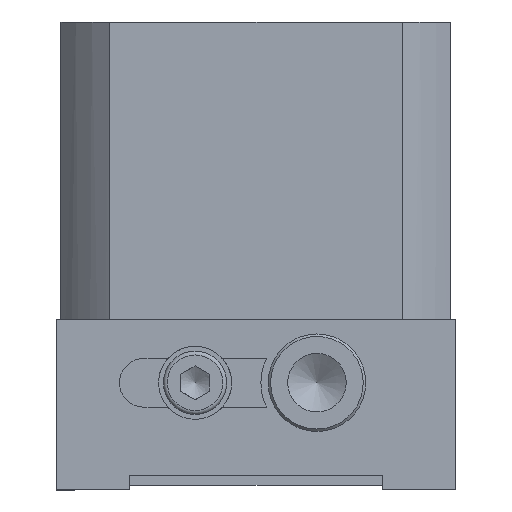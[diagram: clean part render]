
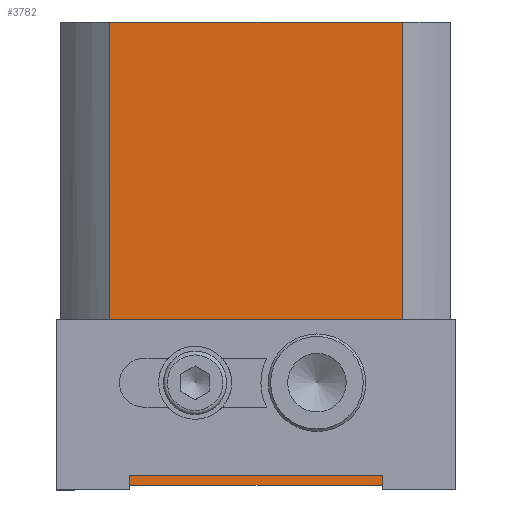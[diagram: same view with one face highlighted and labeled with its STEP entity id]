
A CAD part, left-side view. The second image highlights one B-rep face of the part: STEP entity #3782.
In plain terms, the highlighted planar face has unit normal (-1, 0, 0).
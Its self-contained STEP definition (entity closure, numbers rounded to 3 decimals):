
#1158=CARTESIAN_POINT('',(10.,37.5,-14.));
#1159=VERTEX_POINT('',#1158);
#1160=CARTESIAN_POINT('',(10.,37.5,-24.));
#1161=DIRECTION('',(-1.0,0.0,0.0));
#1162=DIRECTION('',(0.0,-1.0,0.0));
#1163=AXIS2_PLACEMENT_3D('',#1160,#1161,#1162);
#1164=CIRCLE('',#1163,10.0);
#1165=EDGE_CURVE('',#1159,#1159,#1164,.T.);
#3729=CARTESIAN_POINT('',(10.,80.0,50.0));
#3730=DIRECTION('',(-1.0,0.0,0.0));
#3731=DIRECTION('',(0.0,0.0,1.0));
#3732=AXIS2_PLACEMENT_3D('',#3729,#3730,#3731);
#3733=PLANE('',#3732);
#3734=CARTESIAN_POINT('',(10.,20.,50.0));
#3735=VERTEX_POINT('',#3734);
#3736=CARTESIAN_POINT('',(10.,20.,-45.0));
#3737=VERTEX_POINT('',#3736);
#3738=CARTESIAN_POINT('',(10.,20.,50.0));
#3739=DIRECTION('',(0.0,0.0,-1.0));
#3740=VECTOR('',#3739,95.0);
#3741=LINE('',#3738,#3740);
#3742=EDGE_CURVE('',#3735,#3737,#3741,.T.);
#3743=ORIENTED_EDGE('',*,*,#3742,.F.);
#3744=CARTESIAN_POINT('',(10.,80.0,50.0));
#3745=VERTEX_POINT('',#3744);
#3746=CARTESIAN_POINT('',(10.0,80.,50.0));
#3747=DIRECTION('',(0.0,-1.0,0.0));
#3748=VECTOR('',#3747,60.);
#3749=LINE('',#3746,#3748);
#3750=EDGE_CURVE('',#3745,#3735,#3749,.T.);
#3751=ORIENTED_EDGE('',*,*,#3750,.F.);
#3752=CARTESIAN_POINT('',(10.,80.,-45.0));
#3753=VERTEX_POINT('',#3752);
#3754=CARTESIAN_POINT('',(10.,80.0,50.0));
#3755=DIRECTION('',(0.0,0.0,-1.0));
#3756=VECTOR('',#3755,95.0);
#3757=LINE('',#3754,#3756);
#3758=EDGE_CURVE('',#3745,#3753,#3757,.T.);
#3759=ORIENTED_EDGE('',*,*,#3758,.T.);
#3760=CARTESIAN_POINT('',(10.,80.,-45.0));
#3761=DIRECTION('',(0.0,-1.0,0.0));
#3762=VECTOR('',#3761,60.);
#3763=LINE('',#3760,#3762);
#3764=EDGE_CURVE('',#3753,#3737,#3763,.T.);
#3765=ORIENTED_EDGE('',*,*,#3764,.T.);
#3766=EDGE_LOOP('',(#3743,#3751,#3759,#3765));
#3767=FACE_OUTER_BOUND('',#3766,.T.);
#3768=ORIENTED_EDGE('',*,*,#1165,.F.);
#3769=EDGE_LOOP('',(#3768));
#3770=FACE_BOUND('',#3769,.T.);
#3771=CARTESIAN_POINT('',(10.,62.5,-14.));
#3772=VERTEX_POINT('',#3771);
#3773=CARTESIAN_POINT('',(10.,62.5,-24.));
#3774=DIRECTION('',(-1.0,0.0,0.0));
#3775=DIRECTION('',(0.0,1.0,0.0));
#3776=AXIS2_PLACEMENT_3D('',#3773,#3774,#3775);
#3777=CIRCLE('',#3776,10.0);
#3778=EDGE_CURVE('',#3772,#3772,#3777,.T.);
#3779=ORIENTED_EDGE('',*,*,#3778,.F.);
#3780=EDGE_LOOP('',(#3779));
#3781=FACE_BOUND('',#3780,.T.);
#3782=ADVANCED_FACE('',(#3767,#3770,#3781),#3733,.T.);
